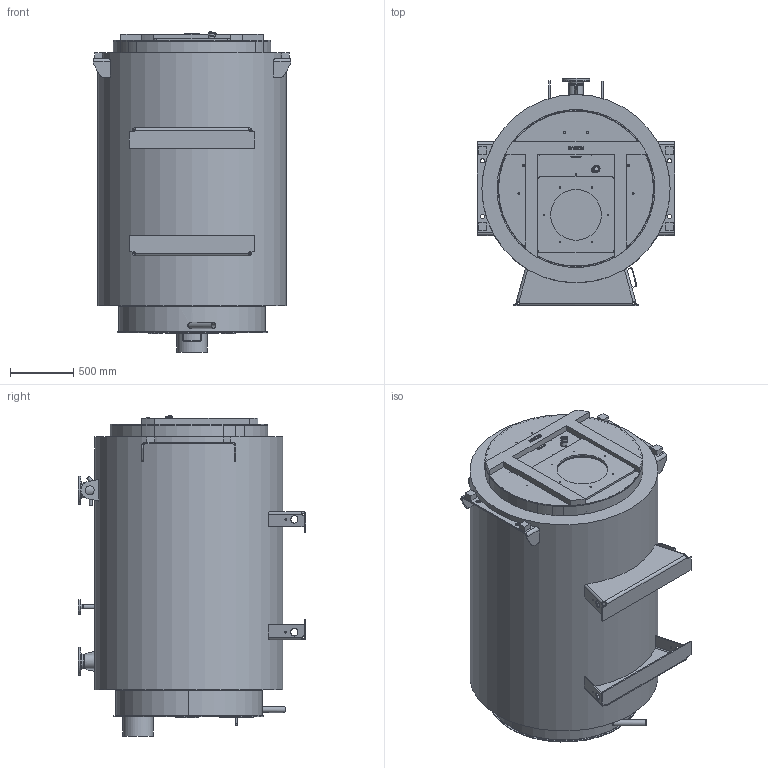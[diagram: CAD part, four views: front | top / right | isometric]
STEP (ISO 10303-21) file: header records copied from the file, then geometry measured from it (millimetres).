
FILE_DESCRIPTION(('TFLEX Exchange Step'),'2;1');
FILE_NAME('M22A022_7953203_H001.stp', '2024-08-01T12:10:49+03:00',('kort'),('Unknown organisation'),'TFLEX Exchange 2024.2','T-FLEX CAD','Unknown authorisation');
FILE_SCHEMA( ('AUTOMOTIVE_DESIGN { 1 0 10303 214 1 1 1 1 }') );
Length unit declared in the file: millimetre
Products named in the file (1): Nodes
Bounding box: 1555 x 1795 x 2526.7 mm (x, y, z)
Volume: 3895450482.7 mm3; surface area: 47439508.9 mm2
Topology: 122 solids, 122 shells, 1284 faces, 3160 edges, 2182 vertices
Faces by surface type: plane 605, cylinder 449, bspline 109, cone 80, torus 37, sphere 4
Full cylindrical faces by diameter (mm): 1 x16, 2.2 x4, 3 x2, 3.2 x4, 3.3 x4, 4 x4, 6.5 x4, 10 x9, 10.11 x6, 10.86 x18, 11.45 x1, 12 x48, 13 x4, 14 x64, 14.63 x6, 15.5 x18, 18 x16, 18.63 x1, 18.9 x1, 22 x6, 25.7 x1, 26.9 x2, 28.5 x1, 28.9 x1, 33.7 x2, 35 x7, 40 x2, 41.1 x1, 41.9 x1, 44.8 x1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
Entity records: 48638 total; most frequent: CARTESIAN_POINT 16916, DIRECTION 6522, ORIENTED_EDGE 6280, EDGE_CURVE 3140, AXIS2_PLACEMENT_3D 2563, VERTEX_POINT 2182, EDGE_LOOP 1634, FACE_BOUND 1634
